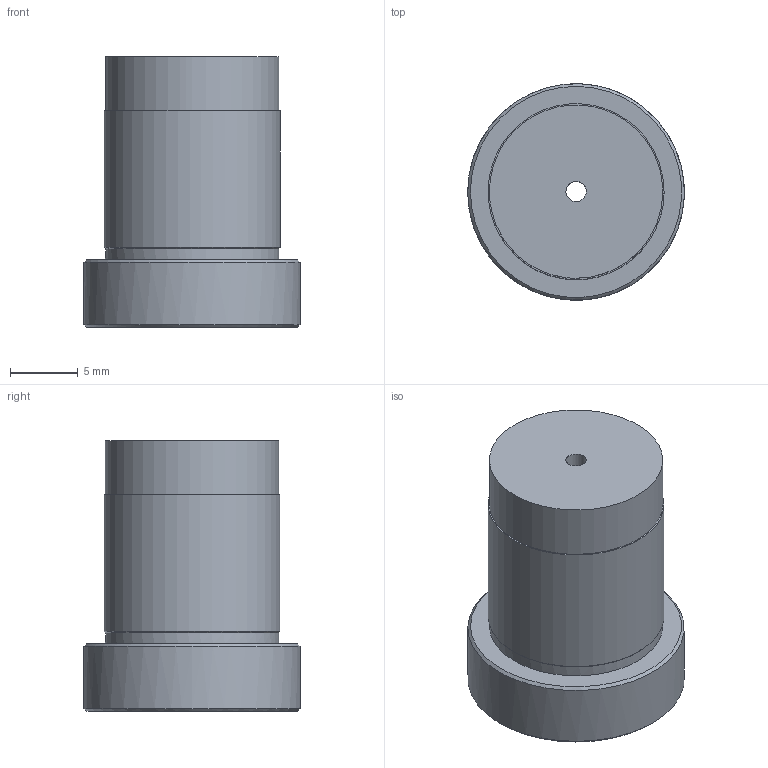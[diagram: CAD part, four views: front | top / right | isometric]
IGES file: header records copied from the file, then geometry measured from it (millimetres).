
Start section: C
Global section: file name: MCPBSC130520.igs; native system: By Siemens PLM Incorporated; preprocessor: XPlus GENERIC/IGES 18.0.17; author: Author; organization: Title; date: 20240724.110715; units: millimetre
Bounding box: 15.99 x 15.99 x 20 mm (x, y, z)
Volume: 2213.4 mm3; surface area: 1662.7 mm2
Topology: 1 solids, 1 shells, 283 faces, 732 edges, 487 vertices
Faces by surface type: bspline 283
